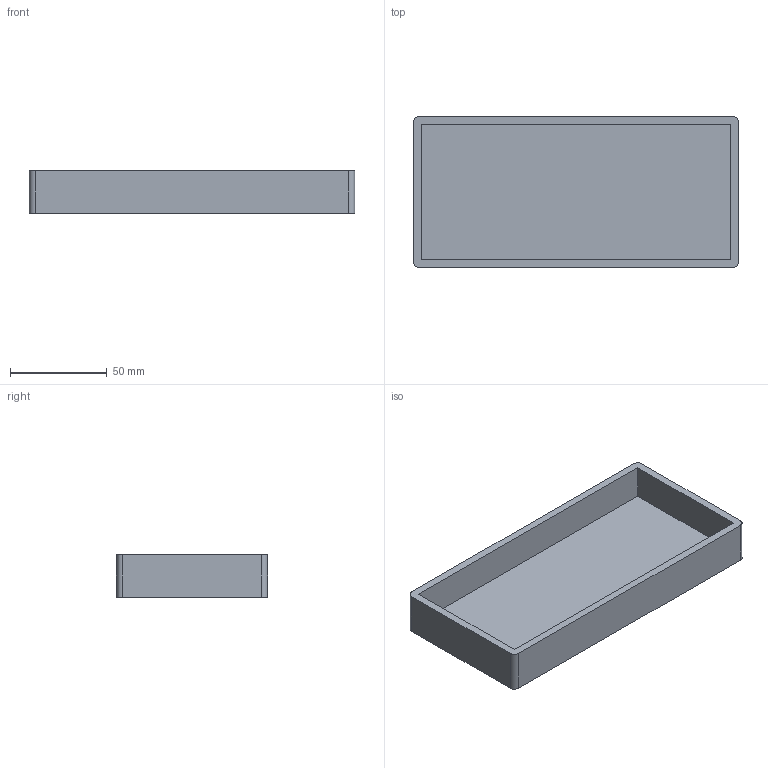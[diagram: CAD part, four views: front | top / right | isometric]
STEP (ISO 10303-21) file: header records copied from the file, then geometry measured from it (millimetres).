
FILE_DESCRIPTION(('Open CASCADE Model'),'2;1');
FILE_NAME('Open CASCADE Shape Model','2026-08-15T08:52:40',('Author'),( 'Open CASCADE'),'Open CASCADE STEP processor 7.9','Open CASCADE 7.9' ,'Unknown');
FILE_SCHEMA(('AUTOMOTIVE_DESIGN { 1 0 10303 214 1 1 1 1 }'));
Length unit declared in the file: millimetre
Products named in the file (1): Open CASCADE STEP translator 7.9 12
Bounding box: 168 x 78 x 22 mm (x, y, z)
Volume: 86518 mm3; surface area: 45183.2 mm2
Topology: 1 solids, 1 shells, 15 faces, 36 edges, 24 vertices
Faces by surface type: plane 11, cylinder 4
Entity records: 920 total; most frequent: CARTESIAN_POINT 180, DIRECTION 136, LINE 84, VECTOR 84, ORIENTED_EDGE 72, PCURVE 72, DEFINITIONAL_REPRESENTATION 72, EDGE_CURVE 36
